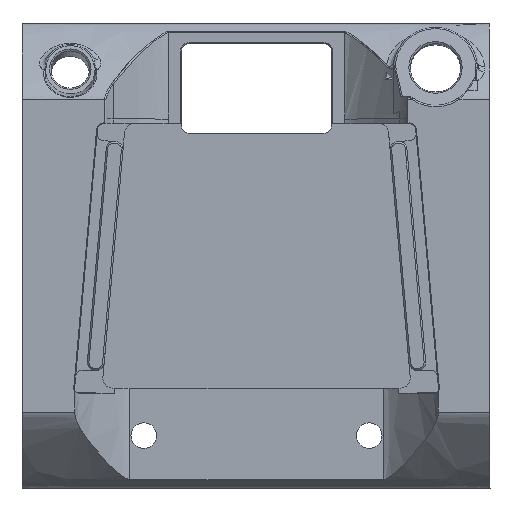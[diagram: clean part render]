
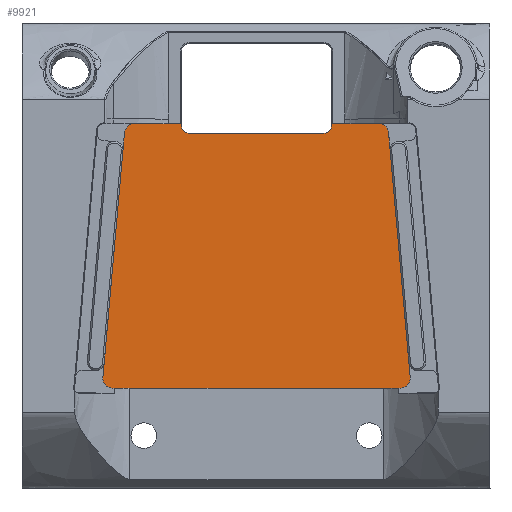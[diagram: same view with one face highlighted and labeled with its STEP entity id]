
A CAD part, top view. The second image highlights one B-rep face of the part: STEP entity #9921.
In plain terms, the highlighted planar face has unit normal (0, 0, 1).
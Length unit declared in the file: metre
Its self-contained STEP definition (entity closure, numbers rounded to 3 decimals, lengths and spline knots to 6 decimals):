
#963=LINE('',#19304,#1741);
#972=LINE('',#19332,#1750);
#1082=LINE('',#24462,#1860);
#1090=LINE('',#24484,#1868);
#1111=LINE('',#24729,#1889);
#1112=LINE('',#24731,#1890);
#1113=LINE('',#24732,#1891);
#1114=LINE('',#24736,#1892);
#1741=VECTOR('',#12830,1.);
#1750=VECTOR('',#12865,1.);
#1860=VECTOR('',#13245,1.);
#1868=VECTOR('',#13267,1.);
#1889=VECTOR('',#13336,1.);
#1890=VECTOR('',#13339,1.);
#1891=VECTOR('',#13340,1.);
#1892=VECTOR('',#13343,1.);
#4688=ORIENTED_EDGE('',*,*,#6104,.F.);
#4689=ORIENTED_EDGE('',*,*,#6102,.F.);
#4690=ORIENTED_EDGE('',*,*,#6090,.F.);
#4691=ORIENTED_EDGE('',*,*,#6088,.T.);
#4692=ORIENTED_EDGE('',*,*,#6080,.F.);
#4693=ORIENTED_EDGE('',*,*,#6453,.F.);
#4694=ORIENTED_EDGE('',*,*,#5863,.F.);
#4695=ORIENTED_EDGE('',*,*,#6454,.F.);
#4696=ORIENTED_EDGE('',*,*,#6455,.T.);
#4697=ORIENTED_EDGE('',*,*,#6456,.F.);
#4698=ORIENTED_EDGE('',*,*,#6417,.F.);
#4699=ORIENTED_EDGE('',*,*,#6415,.T.);
#4700=ORIENTED_EDGE('',*,*,#6407,.F.);
#4701=ORIENTED_EDGE('',*,*,#6404,.F.);
#4702=ORIENTED_EDGE('',*,*,#6448,.T.);
#4703=ORIENTED_EDGE('',*,*,#6452,.T.);
#5863=EDGE_CURVE('',#7035,#7036,#7718,.T.);
#6080=EDGE_CURVE('',#7185,#7186,#7768,.T.);
#6088=EDGE_CURVE('',#7189,#7186,#963,.T.);
#6090=EDGE_CURVE('',#7189,#7193,#7771,.T.);
#6102=EDGE_CURVE('',#7193,#7198,#972,.T.);
#6104=EDGE_CURVE('',#7198,#7199,#7775,.T.);
#6404=EDGE_CURVE('',#7401,#7402,#1082,.T.);
#6407=EDGE_CURVE('',#7402,#7403,#7831,.T.);
#6415=EDGE_CURVE('',#7408,#7403,#1090,.T.);
#6417=EDGE_CURVE('',#7408,#7409,#7834,.T.);
#6448=EDGE_CURVE('',#7401,#7426,#7842,.T.);
#6452=EDGE_CURVE('',#7426,#7199,#1111,.T.);
#6453=EDGE_CURVE('',#7036,#7185,#1112,.T.);
#6454=EDGE_CURVE('',#7429,#7035,#1113,.T.);
#6455=EDGE_CURVE('',#7429,#7430,#7844,.T.);
#6456=EDGE_CURVE('',#7409,#7430,#1114,.T.);
#7035=VERTEX_POINT('',#15874);
#7036=VERTEX_POINT('',#15875);
#7185=VERTEX_POINT('',#19264);
#7186=VERTEX_POINT('',#19265);
#7189=VERTEX_POINT('',#19273);
#7193=VERTEX_POINT('',#19309);
#7198=VERTEX_POINT('',#19333);
#7199=VERTEX_POINT('',#19337);
#7401=VERTEX_POINT('',#24463);
#7402=VERTEX_POINT('',#24464);
#7403=VERTEX_POINT('',#24469);
#7408=VERTEX_POINT('',#24485);
#7409=VERTEX_POINT('',#24489);
#7426=VERTEX_POINT('',#24682);
#7429=VERTEX_POINT('',#24733);
#7430=VERTEX_POINT('',#24735);
#7718=CIRCLE('',#10542,0.003);
#7768=CIRCLE('',#10659,0.003);
#7771=CIRCLE('',#10664,0.003);
#7775=CIRCLE('',#10676,0.003);
#7831=CIRCLE('',#10811,0.0025);
#7834=CIRCLE('',#10818,0.0025);
#7842=CIRCLE('',#10838,0.0005);
#7844=CIRCLE('',#10842,0.0005);
#8448=EDGE_LOOP('',(#4688,#4689,#4690,#4691,#4692,#4693,#4694,#4695,#4696,
#4697,#4698,#4699,#4700,#4701,#4702,#4703));
#9102=FACE_BOUND('',#8448,.T.);
#9380=PLANE('',#10841);
#9921=ADVANCED_FACE('',(#9102),#9380,.F.);
#10542=AXIS2_PLACEMENT_3D('',#15873,#12471,#12472);
#10659=AXIS2_PLACEMENT_3D('',#19263,#12819,#12820);
#10664=AXIS2_PLACEMENT_3D('',#19308,#12835,#12836);
#10676=AXIS2_PLACEMENT_3D('',#19336,#12869,#12870);
#10811=AXIS2_PLACEMENT_3D('',#24468,#13250,#13251);
#10818=AXIS2_PLACEMENT_3D('',#24488,#13271,#13272);
#10838=AXIS2_PLACEMENT_3D('',#24683,#13330,#13331);
#10841=AXIS2_PLACEMENT_3D('',#24730,#13337,#13338);
#10842=AXIS2_PLACEMENT_3D('',#24734,#13341,#13342);
#12471=DIRECTION('',(0.,0.,-1.));
#12472=DIRECTION('',(0.,1.,0.));
#12819=DIRECTION('',(0.,0.,-1.));
#12820=DIRECTION('',(0.996,0.088,0.));
#12830=DIRECTION('',(1.,0.,0.));
#12835=DIRECTION('',(0.,0.,-1.));
#12836=DIRECTION('',(0.,-1.,0.));
#12865=DIRECTION('',(0.088,0.996,0.));
#12869=DIRECTION('',(0.,0.,-1.));
#12870=DIRECTION('',(-0.996,0.088,0.));
#13245=DIRECTION('',(0.,-1.,0.));
#13250=DIRECTION('',(0.,0.,1.));
#13251=DIRECTION('',(-1.,0.,0.));
#13267=DIRECTION('',(-1.,0.,0.));
#13271=DIRECTION('',(0.,0.,1.));
#13272=DIRECTION('',(0.,-1.,0.));
#13330=DIRECTION('',(0.,0.,-1.));
#13331=DIRECTION('',(1.,0.,0.));
#13336=DIRECTION('',(-1.,0.,0.));
#13337=DIRECTION('',(0.,0.,-1.));
#13338=DIRECTION('',(-1.,0.,0.));
#13339=DIRECTION('',(0.088,-0.996,0.));
#13340=DIRECTION('',(1.,0.,0.));
#13341=DIRECTION('',(0.,0.,-1.));
#13342=DIRECTION('',(0.,-1.,0.));
#13343=DIRECTION('',(0.,1.,0.));
#15873=CARTESIAN_POINT('',(0.038363,0.038227,0.400727));
#15874=CARTESIAN_POINT('',(0.038363,0.041227,0.400727));
#15875=CARTESIAN_POINT('',(0.041351,0.038491,0.400727));
#19263=CARTESIAN_POINT('',(0.045113,-0.038227,0.400727));
#19264=CARTESIAN_POINT('',(0.048101,-0.037963,0.400727));
#19265=CARTESIAN_POINT('',(0.045113,-0.041227,0.400727));
#19273=CARTESIAN_POINT('',(-0.044779,-0.041227,0.400727));
#19304=CARTESIAN_POINT('',(-0.044779,-0.041227,0.400727));
#19308=CARTESIAN_POINT('',(-0.044779,-0.038227,0.400727));
#19309=CARTESIAN_POINT('',(-0.047767,-0.037963,0.400727));
#19332=CARTESIAN_POINT('',(-0.047767,-0.037963,0.400727));
#19333=CARTESIAN_POINT('',(-0.041018,0.038491,0.400727));
#19336=CARTESIAN_POINT('',(-0.038029,0.038227,0.400727));
#19337=CARTESIAN_POINT('',(-0.038029,0.041227,0.400727));
#24462=CARTESIAN_POINT('',(-0.023266,0.041727,0.400727));
#24463=CARTESIAN_POINT('',(-0.023266,0.041727,0.400727));
#24464=CARTESIAN_POINT('',(-0.023266,0.040727,0.400727));
#24468=CARTESIAN_POINT('',(-0.020766,0.040727,0.400727));
#24469=CARTESIAN_POINT('',(-0.020766,0.038227,0.400727));
#24484=CARTESIAN_POINT('',(0.0211,0.038227,0.400727));
#24485=CARTESIAN_POINT('',(0.0211,0.038227,0.400727));
#24488=CARTESIAN_POINT('',(0.0211,0.040727,0.400727));
#24489=CARTESIAN_POINT('',(0.0236,0.040727,0.400727));
#24682=CARTESIAN_POINT('',(-0.023766,0.041227,0.400727));
#24683=CARTESIAN_POINT('',(-0.023766,0.041727,0.400727));
#24729=CARTESIAN_POINT('',(-0.023766,0.041227,0.400727));
#24730=CARTESIAN_POINT('',(0.,0.041227,0.400727));
#24731=CARTESIAN_POINT('',(0.041351,0.038491,0.400727));
#24732=CARTESIAN_POINT('',(0.,0.041227,0.400727));
#24733=CARTESIAN_POINT('',(0.0241,0.041227,0.400727));
#24734=CARTESIAN_POINT('',(0.0241,0.041727,0.400727));
#24735=CARTESIAN_POINT('',(0.0236,0.041727,0.400727));
#24736=CARTESIAN_POINT('',(0.0236,0.040727,0.400727));
